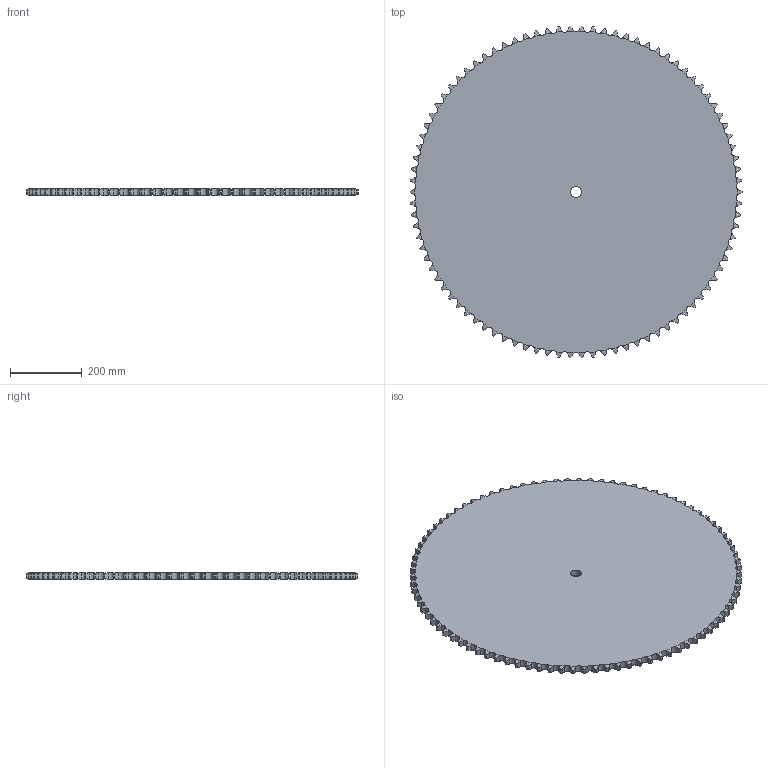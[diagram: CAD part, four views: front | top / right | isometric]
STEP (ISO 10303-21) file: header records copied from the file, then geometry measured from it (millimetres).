
FILE_DESCRIPTION((''),'2;1');
FILE_NAME('500-601-0090_PRT','2021-02-12T',('Brieden'),('Brieden'),'PRO/ENGINEER BY PARAMETRIC TECHNOLOGY CORPORATION, 2010160','PRO/ENGINEER BY PARAMETRIC TECHNOLOGY CORPORATION, 2010160','');
FILE_SCHEMA(('AUTOMOTIVE_DESIGN { 1 0 10303 214 1 1 1 1 }'));
Length unit declared in the file: millimetre
Products named in the file (1): 500-601-0090_PRT
Bounding box: 923.02 x 922.6 x 18.5 mm (x, y, z)
Volume: 11830048.2 mm3; surface area: 1357763.1 mm2
Topology: 1 solids, 1 shells, 544 faces, 1626 edges, 1084 vertices
Faces by surface type: cylinder 362, torus 180, plane 2
Entity records: 28108 total; most frequent: CARTESIAN_POINT 9399, ORIENTED_EDGE 3252, DIRECTION 2538, PRESENTATION_STYLE_ASSIGNMENT 1627, STYLED_ITEM 1627, CURVE_STYLE 1626, EDGE_CURVE 1626, AXIS2_PLACEMENT_3D 1088
